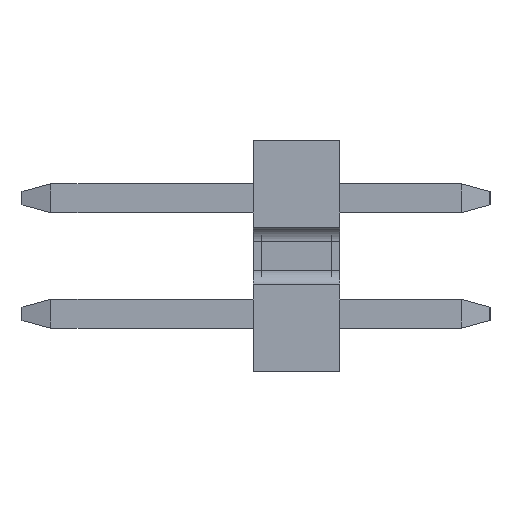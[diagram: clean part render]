
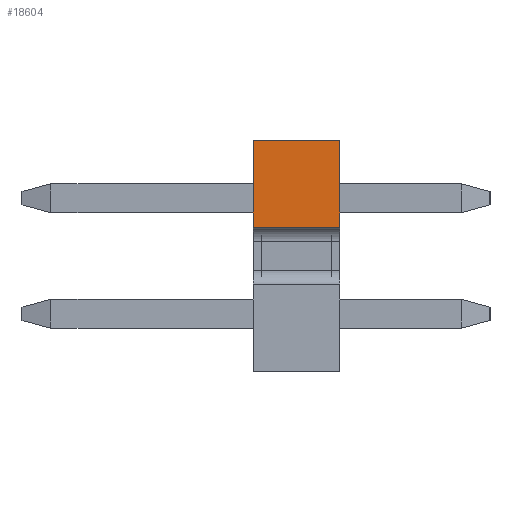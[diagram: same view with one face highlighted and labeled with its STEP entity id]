
A CAD part, left-side view. The second image highlights one B-rep face of the part: STEP entity #18604.
In plain terms, the highlighted planar face has unit normal (-1, 0, 0).
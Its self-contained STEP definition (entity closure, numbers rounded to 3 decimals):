
#2069=DIRECTION('',(0.,1.,0.));
#2070=VECTOR('',#2069,1.5);
#2071=CARTESIAN_POINT('',(-24.95,-0.75,0.5));
#2072=LINE('',#2071,#2070);
#2073=DIRECTION('',(0.,0.,1.));
#2074=VECTOR('',#2073,1.5);
#2075=CARTESIAN_POINT('',(-24.95,0.75,0.5));
#2076=LINE('',#2075,#2074);
#2934=DIRECTION('',(0.,-1.,0.));
#2935=VECTOR('',#2934,1.5);
#2936=CARTESIAN_POINT('',(-24.95,0.75,2.));
#2937=LINE('',#2936,#2935);
#3890=DIRECTION('',(0.,0.,1.));
#3891=VECTOR('',#3890,1.5);
#3892=CARTESIAN_POINT('',(-24.95,-0.75,0.5));
#3893=LINE('',#3892,#3891);
#12961=CARTESIAN_POINT('',(-24.95,0.75,2.));
#12962=CARTESIAN_POINT('',(-24.95,-0.75,2.));
#12963=VERTEX_POINT('',#12961);
#12964=VERTEX_POINT('',#12962);
#12969=CARTESIAN_POINT('',(-24.95,-0.75,0.5));
#12970=CARTESIAN_POINT('',(-24.95,0.75,0.5));
#12971=VERTEX_POINT('',#12969);
#12972=VERTEX_POINT('',#12970);
#18591=CARTESIAN_POINT('',(-24.95,0.75,-2.));
#18592=DIRECTION('',(-1.,0.,0.));
#18593=DIRECTION('',(0.,-1.,0.));
#18594=AXIS2_PLACEMENT_3D('',#18591,#18592,#18593);
#18595=PLANE('',#18594);
#18596=ORIENTED_EDGE('',*,*,#18581,.T.);
#18597=ORIENTED_EDGE('',*,*,#17830,.T.);
#18599=ORIENTED_EDGE('',*,*,#18598,.T.);
#18601=ORIENTED_EDGE('',*,*,#18600,.F.);
#18602=EDGE_LOOP('',(#18596,#18597,#18599,#18601));
#18603=FACE_OUTER_BOUND('',#18602,.F.);
#18604=ADVANCED_FACE('',(#18603),#18595,.T.);
#17830=EDGE_CURVE('',#12972,#12963,#2076,.T.);
#18581=EDGE_CURVE('',#12971,#12972,#2072,.T.);
#18598=EDGE_CURVE('',#12963,#12964,#2937,.T.);
#18600=EDGE_CURVE('',#12971,#12964,#3893,.T.);
